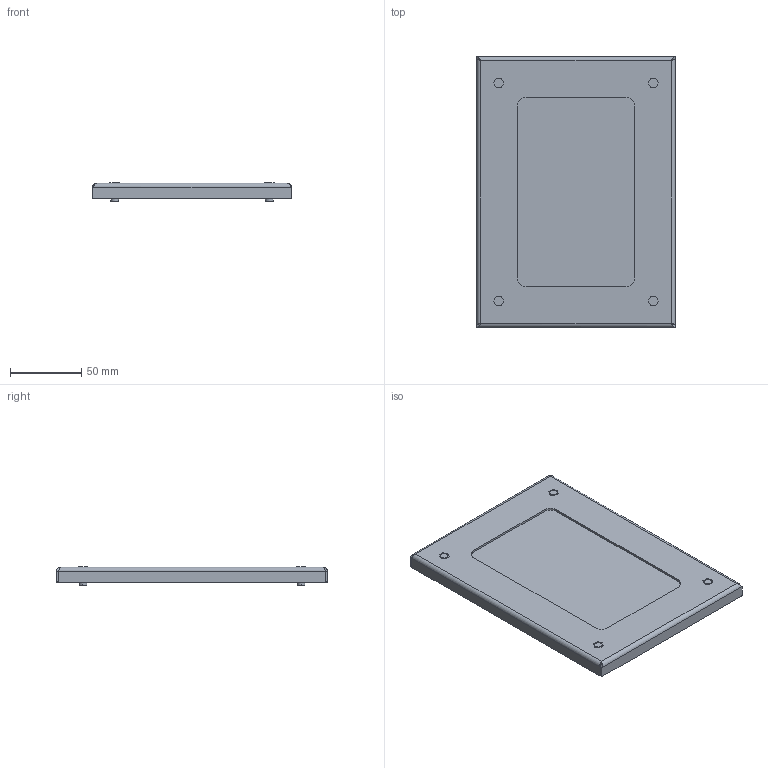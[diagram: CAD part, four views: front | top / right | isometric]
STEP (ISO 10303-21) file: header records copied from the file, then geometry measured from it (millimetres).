
FILE_DESCRIPTION((''),'2;1');
FILE_NAME('MODEL-391_ASM','2012-09-07T',('joelb'),('SAGINAW CONTROL & ENGINEERING'),'PRO/ENGINEER BY PARAMETRIC TECHNOLOGY CORPORATION, 2012070','PRO/ENGINEER BY PARAMETRIC TECHNOLOGY CORPORATION, 2012070','');
FILE_SCHEMA(('AUTOMOTIVE_DESIGN { 1 0 10303 214 1 1 1 1 }'));
Length unit declared in the file: inch
Products named in the file (5): MODEL-391-FRAME; MODEL-391-LEXAN; 118623; 118415; MODEL-391_ASM
Assembly tree (7 placements, depth 2):
  MODEL-391_ASM
    MODEL-391-FRAME
    MODEL-391-LEXAN
    118623  x4
    118415
Bounding box: 139.7 x 190.5 x 12.7 mm (x, y, z)
Volume: 168951.1 mm3; surface area: 98173.3 mm2
Topology: 6 solids, 6 shells, 144 faces, 332 edges, 208 vertices
Faces by surface type: plane 72, cylinder 56, bspline 8, cone 8
Entity records: 6046 total; most frequent: CARTESIAN_POINT 2693, DIRECTION 488, ORIENTED_EDGE 460, PRESENTATION_STYLE_ASSIGNMENT 241, STYLED_ITEM 233, CURVE_STYLE 230, EDGE_CURVE 230, AXIS2_PLACEMENT_3D 174
